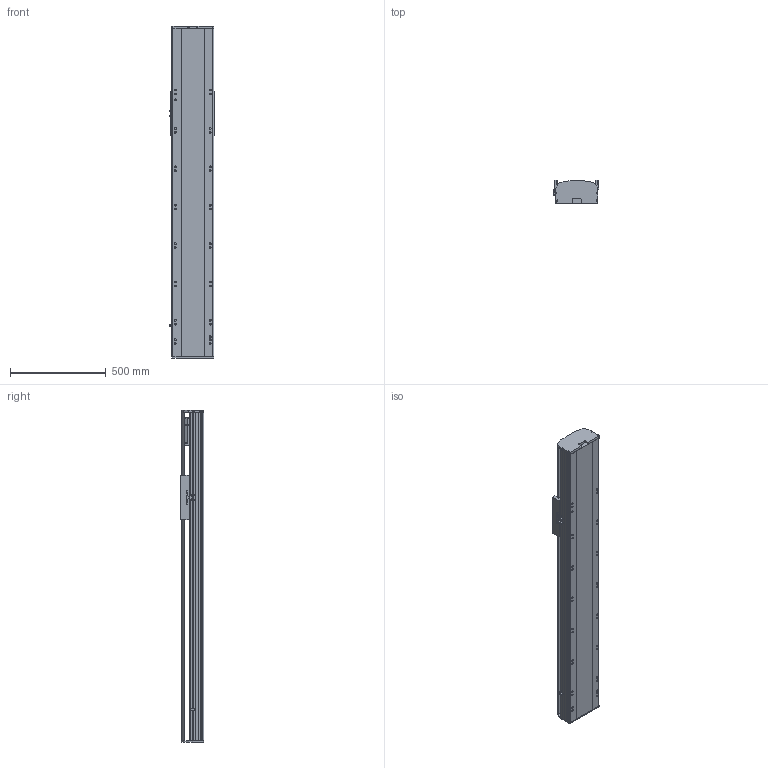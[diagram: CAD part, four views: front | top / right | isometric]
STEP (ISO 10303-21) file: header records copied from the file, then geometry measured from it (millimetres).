
FILE_DESCRIPTION (( 'STEP AP214' ), '1' );
FILE_NAME ('RTH22-XX-1100-B-M75B-C4.STEP', '2025-10-24T10:12:26', ( 'Microsoft' ), ( 'Microsoft' ), 'SwSTEP 2.0', 'SolidWorks 2018', '' );
FILE_SCHEMA (( 'AUTOMOTIVE_DESIGN' ));
Length unit declared in the file: millimetre
Products named in the file (9): N_750W萇儂^RTH22-XX-XX-B-M75B-C4; N_RTH22-E-004-SFS25賑釱^RTH22-XX-XX-B-M75B-C4; N_RTH22-B-007B奻裔^RTH22-XX-XX-B-M75B-C4; N_RTH22-B008萇儂啣^RTH22-XX-XX-B-M75B-C4; N_RTH22-B-011B菁釱^RTH22-XX-XX-B-M75B-C4; N_RTH22-GY-001耜裔^RTH22-XX-XX-B-M75B-C4; RTH22-XX-1100-B-M75B-C4; N_OMRON EE-SX672 传感器^RTH22-XX-XX-B-M75B-C4; N_RTH22-GY-013外置感应片^RTH22-XX-XX-B-M75B-C4
Assembly tree (10 placements, depth 2):
  RTH22-XX-1100-B-M75B-C4
    N_RTH22-B-011B菁釱^RTH22-XX-XX-B-M75B-C4
    N_RTH22-GY-001耜裔^RTH22-XX-XX-B-M75B-C4
    N_750W萇儂^RTH22-XX-XX-B-M75B-C4
    N_RTH22-B008萇儂啣^RTH22-XX-XX-B-M75B-C4
    N_RTH22-B-007B奻裔^RTH22-XX-XX-B-M75B-C4
    N_OMRON EE-SX672 传感器^RTH22-XX-XX-B-M75B-C4  x3
    N_RTH22-GY-013外置感应片^RTH22-XX-XX-B-M75B-C4
    N_RTH22-E-004-SFS25賑釱^RTH22-XX-XX-B-M75B-C4
Bounding box: 238.5 x 122 x 1730 mm (x, y, z)
Volume: 23119283.9 mm3; surface area: 2375229 mm2
Topology: 10 solids, 10 shells, 1551 faces, 4250 edges, 2743 vertices
Faces by surface type: plane 756, cylinder 454, bspline 279, cone 62
Entity records: 38749 total; most frequent: CARTESIAN_POINT 11993, ORIENTED_EDGE 5468, DIRECTION 5152, EDGE_CURVE 2734, VERTEX_POINT 1779, AXIS2_PLACEMENT_3D 1742, LINE 1668, VECTOR 1668
